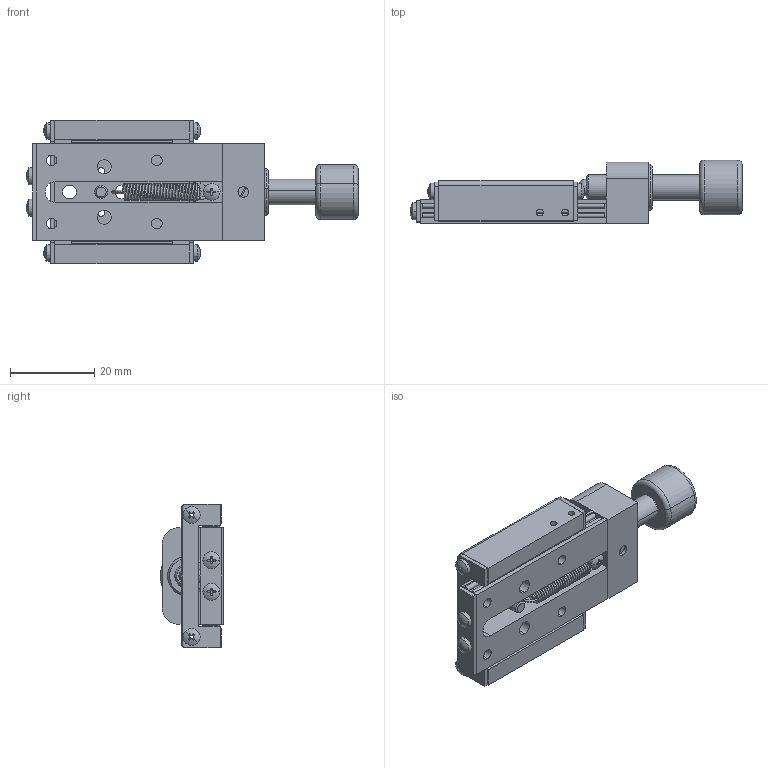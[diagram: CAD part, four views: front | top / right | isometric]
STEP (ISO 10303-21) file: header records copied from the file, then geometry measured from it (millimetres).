
FILE_DESCRIPTION (( 'STEP AP203' ), '1' );
FILE_NAME ('7STM02113Æ½ÒÆÌ¨.STEP', '2019-08-27T05:53:51', ( '' ), ( '' ), 'SwSTEP 2.0', 'SolidWorks 2014', '' );
FILE_SCHEMA (( 'CONFIG_CONTROL_DESIGN' ));
Length unit declared in the file: millimetre
Products named in the file (1): 7STM02113す痄怢
Bounding box: 78.83 x 15.17 x 34 mm (x, y, z)
Surface area: 11691.4 mm2 (no closed solid volume)
Topology: 0 solids, 39 shells, 384 faces, 1185 edges, 832 vertices
Faces by surface type: plane 182, cylinder 150, torus 18, sphere 16, cone 14, bspline 4
Entity records: 20150 total; most frequent: CARTESIAN_POINT 9455, DIRECTION 2359, ORIENTED_EDGE 1973, EDGE_CURVE 1180, AXIS2_PLACEMENT_3D 923, VERTEX_POINT 829, CIRCLE 542, LINE 513
